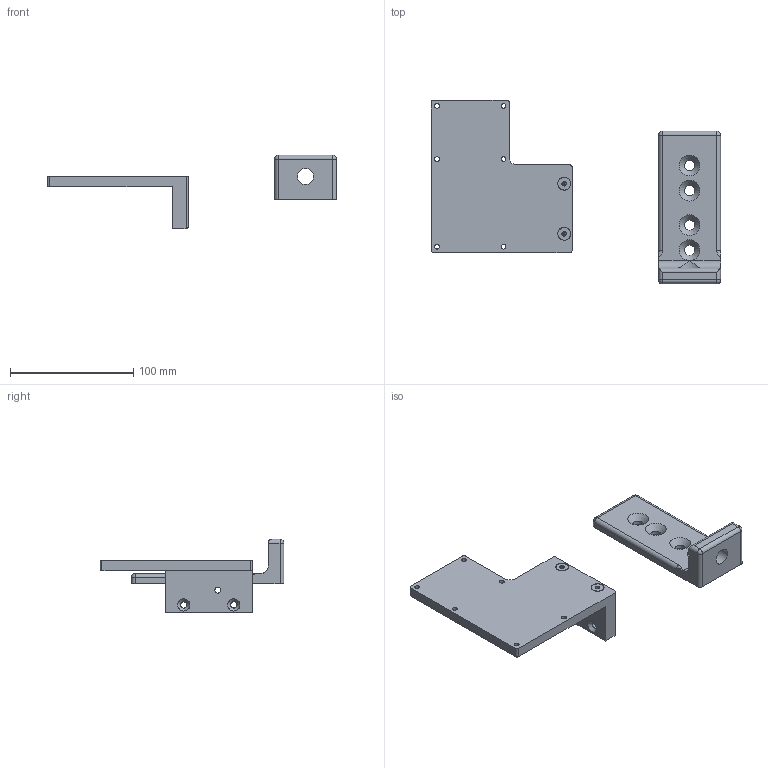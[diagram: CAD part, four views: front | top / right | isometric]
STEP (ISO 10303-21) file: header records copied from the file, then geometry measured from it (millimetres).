
FILE_DESCRIPTION((''),'2;1');
FILE_NAME('F:\CAD files\Itr\3D MARKETING MODELS\ACCESSORIES\AC1062\AC1062.stp','2017-04-24T12:52:10',('mlampen'),(''),'Autodesk Inventor 2010','Autodesk Inventor 2010','');
FILE_SCHEMA(('AUTOMOTIVE_DESIGN { 1 0 10303 214 1 1 1 1 }'));
Length unit declared in the file: inch
Products named in the file (3): Assembly1; Part2; Part4
Assembly tree (2 placements, depth 2):
  Assembly1
    Part2
    Part4
Bounding box: 234.57 x 149.22 x 59.69 mm (x, y, z)
Volume: 185189.3 mm3; surface area: 52239.7 mm2
Topology: 2 solids, 2 shells, 120 faces, 292 edges, 175 vertices
Faces by surface type: plane 47, cylinder 37, cone 27, bspline 5, torus 2, sphere 2
Full cylindrical faces by diameter (mm): 3.81 x6, 4.826 x1, 5.105 x4, 8.382 x4, 13.106 x1
Entity records: 3427 total; most frequent: CARTESIAN_POINT 746, DIRECTION 567, ORIENTED_EDGE 470, EDGE_CURVE 235, AXIS2_PLACEMENT_3D 232, EDGE_LOOP 184, VERTEX_POINT 155, FACE_OUTER_BOUND 120
